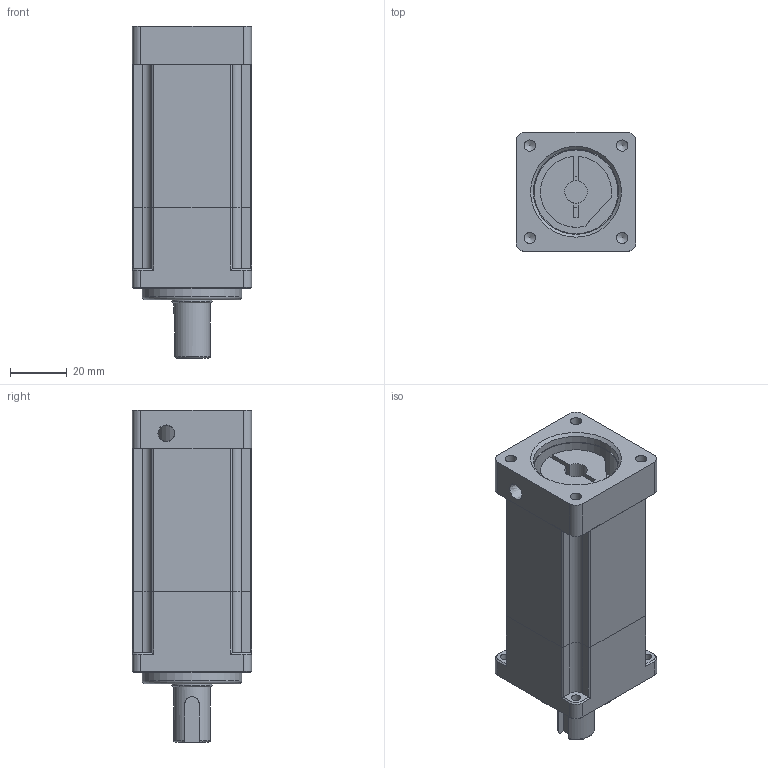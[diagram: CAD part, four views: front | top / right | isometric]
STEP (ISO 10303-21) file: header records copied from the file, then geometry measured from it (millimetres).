
FILE_DESCRIPTION((''),'2;1');
FILE_NAME('\\File-server\연구소\카달로그-전체\카탈로그-2005 신규\카탈로그-국문\PLANETARY GEAR HEAD\SPI042\SPI042S015~100A.stp','2008-09-23T09:05:25',('ji-joe'),(''),'Autodesk Inventor 2009','Autodesk Inventor 2009','');
FILE_SCHEMA(('AUTOMOTIVE_DESIGN { 1 0 10303 214 1 1 1 1 }'));
Length unit declared in the file: millimetre
Products named in the file (4): SPI042 2단; SPI042 OUT; SPI042 IN; SPI042 FLANGE
Assembly tree (3 placements, depth 2):
  SPI042 2단
    SPI042 OUT
    SPI042 IN
    SPI042 FLANGE
Bounding box: 42 x 42 x 117 mm (x, y, z)
Volume: 148757.7 mm3; surface area: 29127.5 mm2
Topology: 3 solids, 3 shells, 144 faces, 380 edges, 246 vertices
Faces by surface type: plane 70, cylinder 41, bspline 20, cone 10, torus 3
Full cylindrical faces by diameter (mm): 8 x1, 11 x1, 13 x1, 14.2 x1, 29.5 x1, 35 x1
Entity records: 4640 total; most frequent: CARTESIAN_POINT 1147, DIRECTION 715, ORIENTED_EDGE 670, EDGE_CURVE 335, AXIS2_PLACEMENT_3D 254, VERTEX_POINT 228, VECTOR 207, LINE 207
